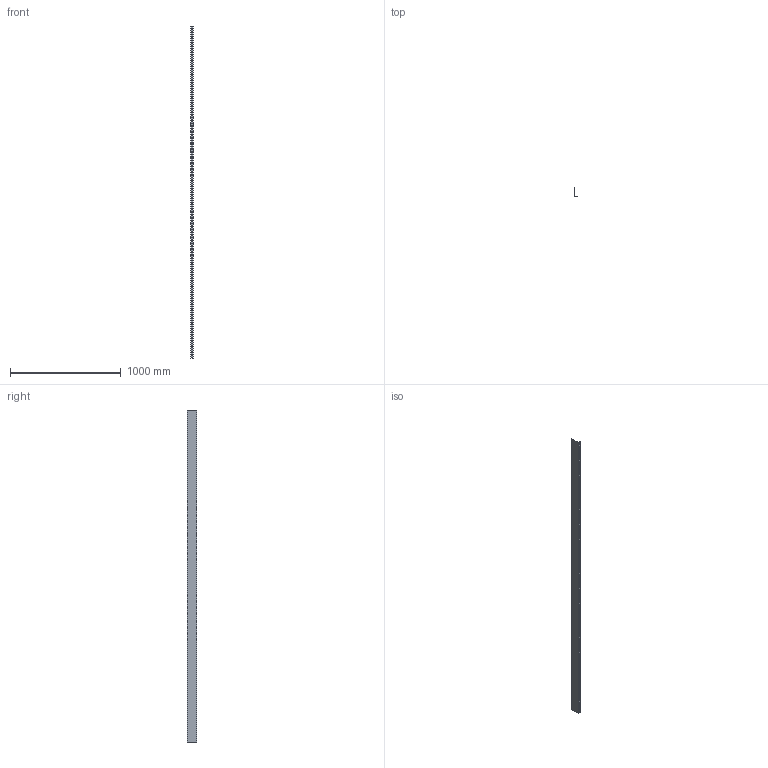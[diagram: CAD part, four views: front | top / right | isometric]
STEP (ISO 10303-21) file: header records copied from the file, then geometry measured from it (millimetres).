
FILE_DESCRIPTION (( 'STEP AP214' ), '1' );
FILE_NAME ('52D3I.step', '2025-02-21T12:40:28', ( '' ), ( '' ), 'SwSTEP 2.0', 'SolidWorks 2023', '' );
FILE_SCHEMA (( 'AUTOMOTIVE_DESIGN' ));
Length unit declared in the file: millimetre
Products named in the file (1): 52D3I
Bounding box: 27 x 83 x 3000 mm (x, y, z)
Volume: 252000 mm3; surface area: 638661.1 mm2
Topology: 1 solids, 1 shells, 296 faces, 882 edges, 588 vertices
Faces by surface type: plane 296
Entity records: 10037 total; most frequent: CARTESIAN_POINT 1767, ORIENTED_EDGE 1764, DIRECTION 1476, VECTOR 882, LINE 882, EDGE_CURVE 882, VERTEX_POINT 588, EDGE_LOOP 440
